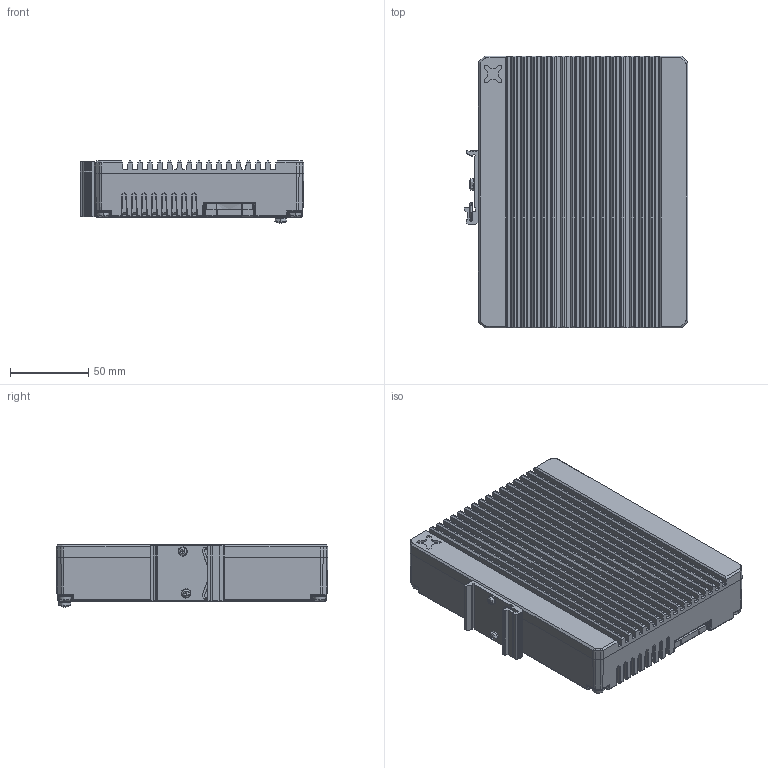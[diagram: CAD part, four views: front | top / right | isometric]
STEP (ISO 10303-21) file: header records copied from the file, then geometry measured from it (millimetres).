
FILE_DESCRIPTION (( 'STEP AP203' ), '1' );
FILE_NAME ('xEdge7 Slim.STEP', '2024-07-12T08:24:27', ( '' ), ( '' ), 'SwSTEP 2.0', 'SolidWorks 2024', '' );
FILE_SCHEMA (( 'CONFIG_CONTROL_DESIGN' ));
Products named in the file (1): xEdge7 Slim
Bounding box: 143.25 x 174.06 x 39.76 mm (x, y, z)
Topology: 0 solids, 15 shells, 9875 faces, 28077 edges, 17880 vertices
Faces by surface type: plane 6995, cylinder 2032, bspline 411, sphere 164, cone 148, torus 125
Full cylindrical faces by diameter (mm): 0.62 x4, 1 x7
Entity records: 328925 total; most frequent: CARTESIAN_POINT 75004, ORIENTED_EDGE 56140, DIRECTION 48853, EDGE_CURVE 28070, LINE 22161, VECTOR 22161, VERTEX_POINT 17880, AXIS2_PLACEMENT_3D 13346
